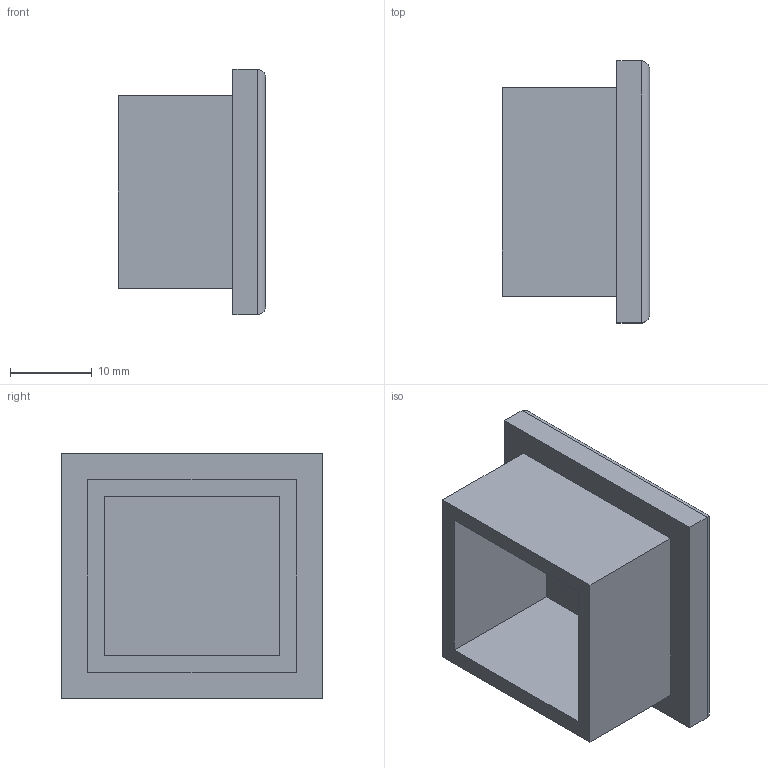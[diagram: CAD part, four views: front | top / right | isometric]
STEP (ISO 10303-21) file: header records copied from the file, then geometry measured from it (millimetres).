
FILE_DESCRIPTION((''),'2;1');
FILE_NAME('C:\Documents and Settings\Administrator\My Documents\Andys Backup Data\WEBSITE\DREAMWEAVER\MiniTec\Products\Modular_Workstations\CAD\Step\32.0223 CAP FOR C-PROFILE RAIL.stp','2012-10-29T10:51:32',('Administrator'),(''),'Autodesk Inventor 2009','Autodesk Inventor 2009','');
FILE_SCHEMA(('AUTOMOTIVE_DESIGN { 1 0 10303 214 1 1 1 1 }'));
Length unit declared in the file: millimetre
Products named in the file (1): 32.0223 CAP FOR C-PROFILE RAIL
Bounding box: 18 x 32 x 30 mm (x, y, z)
Volume: 5550.5 mm3; surface area: 5039.5 mm2
Topology: 1 solids, 1 shells, 20 faces, 44 edges, 28 vertices
Faces by surface type: plane 16, cylinder 4
Entity records: 566 total; most frequent: CARTESIAN_POINT 93, DIRECTION 90, ORIENTED_EDGE 88, EDGE_CURVE 44, VECTOR 40, LINE 40, VERTEX_POINT 28, AXIS2_PLACEMENT_3D 25
